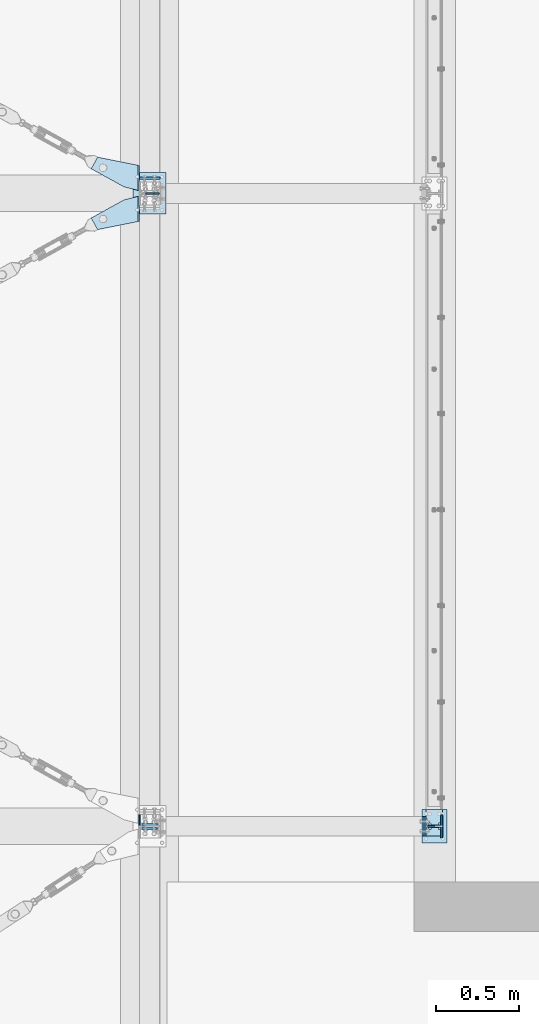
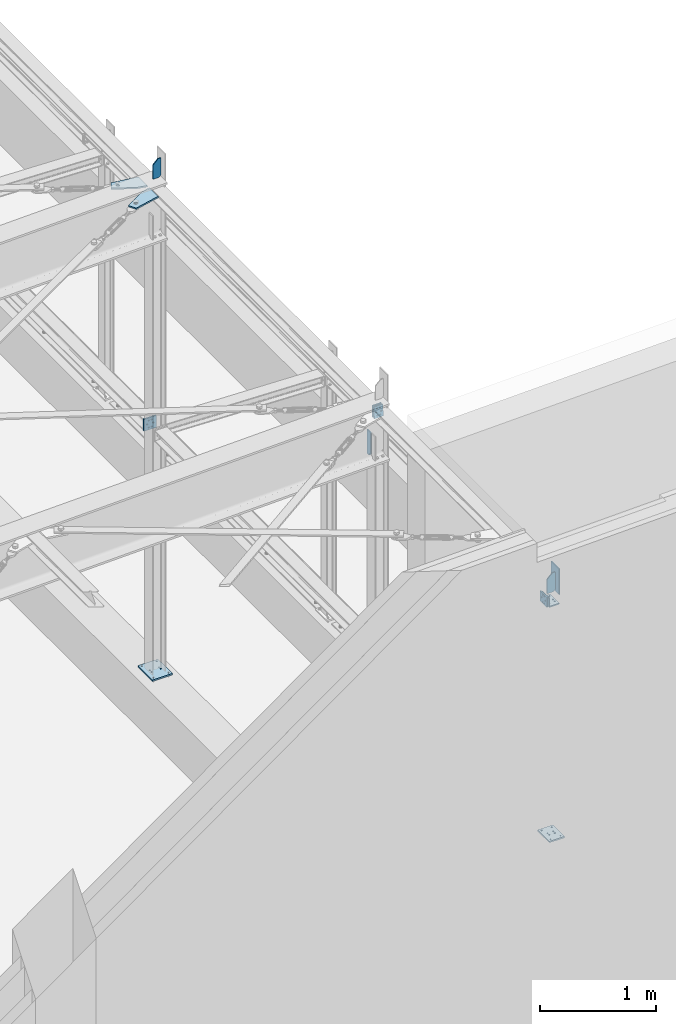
# One storey, part 42 of 476: 14 plates, 61 openings.
"""IFC2X3 building model written with IfcOpenShell, lengths in millimetres."""

from ifc_helpers import new_model, entity, si_unit, converted_unit, point, frame, frame_2d, origin, origin_with_axes, origin_2d_with_axis, place, context, project, spatial, polyline, circle_curve, line_curve, trimmed, segment, composite_curve, circle, outline, extrude, material, layer, layer_set, element, save


model = new_model("IFC2X3")

# Units and contexts
model_context = context("Model", 3, precision=1e-09, world=origin_with_axes())
ifc_project = project(units=[si_unit("LENGTHUNIT", "METRE", prefix="MILLI"), si_unit("AREAUNIT", "SQUARE_METRE"), si_unit("VOLUMEUNIT", "CUBIC_METRE"), converted_unit("PLANEANGLEUNIT", "DEGREE", entity("IfcPlaneAngleMeasure", 0.01745329), si_unit("PLANEANGLEUNIT", "RADIAN"), dimensions=[0, 0, 0, 0, 0, 0, 0])], contexts=[model_context])

# Site, building, storey
site_placement = place(None, origin_with_axes())
site = spatial("IfcSite", under=ifc_project, at=site_placement, Name="mKR Teilneubau & Sanierung BA1 - Ostfildern", CompositionType="ELEMENT")
building_placement = place(site_placement, origin_with_axes())
building = spatial("IfcBuilding", under=site, at=building_placement, Name="Struktur 1", CompositionType="ELEMENT")
storey_placement = place(building_placement, origin_with_axes())
storey = spatial("IfcBuildingStorey", under=building, at=storey_placement, Name="Default Storey", CompositionType="ELEMENT", Elevation=0.0)

# Plate, openings
ifc_material = material(Name="S235JR")
ifc_layer_1 = layer(ifc_material, 15.0)
ifc_layer_set_1 = layer_set([ifc_layer_1], Name="S235JR")
plate_1_placement = place(None, frame((21903.92386925, -17423.67287897, 5627.158981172), z_axis=(-0.030019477, 0.0, 0.999549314), x_axis=(-0.999549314, 0.0, -0.030019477)))
plate_1 = element("IfcPlate", 1, at=plate_1_placement, inside=storey, material=ifc_layer_set_1, Name="-", ObjectType="-", context=model_context, shape_type="SweptSolid", body=[
    extrude(outline(polyline([(0.0, 0.0), (55.140356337, 0.0), (291.381008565, 130.729269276), (252.646618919, 200.726934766), (1e-09, 150.0), (0.0, 0.0)])), origin_with_axes(), (0.0, 0.0, -1.0), 15.0),
])
opening_1_placement = place(plate_1_placement, frame((55.140356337, 0.0, 0.01), z_axis=(0.0, 0.0, 1.0), x_axis=(0.874966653, 0.484183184, 0.0)))
element("IfcOpeningElement", 2, at=opening_1_placement, cuts=plate_1, ObjectType="Opening", context=model_context, shape_type="SweptSolid", body=[
    extrude(outline(composite_curve([segment(trimmed(line_curve((0.0, 0.0), (1.0, 0.0), 45.191234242), [point((0.0, 0.0))], [point((45.191234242, 0.0))], True, "CARTESIAN"), True, "CONTINUOUS"), segment(trimmed(circle_curve(frame_2d((45.191234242, 175.0), x_axis=(-1.0, 0.0)), 175.0), [point((45.191234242, 0.0))], [point((-39.540822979, 21.880835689))], False, "CARTESIAN"), True, "CONTINUOUS"), segment(trimmed(line_curve((-39.540822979, 21.880835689), (0.874966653, -0.484183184), 45.191234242), [point((-39.540822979, 21.880835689))], [point((0.0, 0.0))], True, "CARTESIAN"), True, "CONTINUOUS")], self_intersect=False)), origin(), (0.0, 0.0, -1.0), 15.02),
])
opening_2_placement = place(plate_1_placement, frame((0.0, -0.001, 0.0), z_axis=(0.0, 1.0, 0.0), x_axis=(1.0, 0.0, 0.0)))
element("IfcOpeningElement", 3, at=opening_2_placement, cuts=plate_1, ObjectType="Opening", context=model_context, shape_type="SweptSolid", body=[
    extrude(outline(polyline([(0.0, 0.0), (8.0, 0.0), (0.0, 8.0), (0.0, 0.0)])), origin(), (0.0, 0.0, 1.0), 151.628257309),
])
opening_3_placement = place(plate_1_placement, frame((206.828395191, 129.656694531, -15.499404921), z_axis=(-2.2474e-05, 0.0, -1.0), x_axis=(-1.0, 0.0, 2.2474e-05)))
element("IfcOpeningElement", 4, at=opening_3_placement, cuts=plate_1, ObjectType="Opening", context=model_context, shape_type="SweptSolid", body=[
    extrude(circle(Radius=14.501, at=frame_2d((-12.687891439, 7.021140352), x_axis=(1.0, 0.0))), origin(), (0.0, 0.0, -1.0), 16.000000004),
])

plate_2_placement = place(None, frame((21903.92386925, -17387.67487897, 5627.158981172), z_axis=(0.030019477, 0.0, -0.999549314), x_axis=(-0.999549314, 0.0, -0.030019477)))
plate_2 = element("IfcPlate", 5, at=plate_2_placement, inside=storey, material=ifc_layer_set_1, Name="-", ObjectType="-", context=model_context, shape_type="SweptSolid", body=[
    extrude(outline(polyline([(0.0, 0.0), (55.140356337, 0.0), (291.381008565, 130.729269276), (252.646618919, 200.726934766), (1e-09, 150.0), (0.0, 0.0)])), origin_with_axes(), (0.0, 0.0, 1.0), 15.0),
])
opening_4_placement = place(plate_2_placement, frame((0.0, 0.0, -0.01), z_axis=(0.0, 0.0, 1.0), x_axis=(1.0, 0.0, 0.0)))
element("IfcOpeningElement", 6, at=opening_4_placement, cuts=plate_2, ObjectType="Opening", context=model_context, shape_type="SweptSolid", body=[
    extrude(outline(composite_curve([segment(trimmed(line_curve((55.140356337, 0.0), (0.874966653, 0.484183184), 45.191234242), [point((55.140356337, 0.0))], [point((94.681179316, 21.880835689))], True, "CARTESIAN"), True, "CONTINUOUS"), segment(trimmed(circle_curve(frame_2d((9.949122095, 175.0), x_axis=(-1.0, 0.0)), 175.0), [point((94.681179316, 21.880835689))], [point((9.949122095, 0.0))], False, "CARTESIAN"), True, "CONTINUOUS"), segment(trimmed(line_curve((9.949122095, 0.0), (1.0, 0.0), 45.191234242), [point((9.949122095, 0.0))], [point((55.140356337, 0.0))], True, "CARTESIAN"), True, "CONTINUOUS")], self_intersect=False)), origin(), (0.0, 0.0, 1.0), 15.02),
])
opening_5_placement = place(plate_2_placement, frame((1e-09, 151.607257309, 0.0), z_axis=(0.0, -1.0, 0.0), x_axis=(1.0, 0.0, 0.0)))
element("IfcOpeningElement", 7, at=opening_5_placement, cuts=plate_2, ObjectType="Opening", context=model_context, shape_type="SweptSolid", body=[
    extrude(outline(polyline([(0.0, 0.0), (8.0, 0.0), (0.0, 8.0), (0.0, 0.0)])), origin(), (0.0, 0.0, 1.0), 151.628257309),
])
opening_6_placement = place(plate_2_placement, frame((219.516286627, 136.677834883, 15.499690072), z_axis=(2.2474e-05, 0.0, -1.0), x_axis=(0.874966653, 0.484183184, 1.9664e-05)))
element("IfcOpeningElement", 8, at=opening_6_placement, cuts=plate_2, ObjectType="Opening", context=model_context, shape_type="SweptSolid", body=[
    extrude(circle(Radius=14.501, at=origin_2d_with_axis()), origin(), (0.0, 0.0, 1.0), 16.000000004),
])

ifc_layer_2 = layer(ifc_material, 10.0)
ifc_layer_set_2 = layer_set([ifc_layer_2], Name="S235JR")
plate_3_placement = place(None, frame((21942.108764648, -17400.67387897, 5888.306606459), z_axis=(0.0, 1.0, 0.0), x_axis=(1.0, 0.0, 0.0)))
plate_3 = element("IfcPlate", 9, at=plate_3_placement, inside=storey, material=ifc_layer_set_2, Name="-", ObjectType="-", context=model_context, shape_type="SweptSolid", body=[
    extrude(outline(polyline([(0.0, 0.0), (80.0, 0.0), (80.0, 197.595559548), (0.0, 200.0), (0.0, 0.0)])), origin_with_axes(), (0.0, 0.0, -1.0), 10.0),
])
opening_7_placement = place(plate_3_placement, frame((0.0, 0.0, 0.01), z_axis=(0.0, 0.0, 1.0), x_axis=(1.0, 0.0, 0.0)))
element("IfcOpeningElement", 10, at=opening_7_placement, cuts=plate_3, ObjectType="Opening", context=model_context, shape_type="SweptSolid", body=[
    extrude(outline(polyline([(0.0, 0.0), (50.0, 0.0), (0.0, 50.0), (0.0, 0.0)])), origin(), (0.0, 0.0, -1.0), 10.02),
])
opening_8_placement = place(plate_3_placement, frame((80.0, 197.595559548, 0.01), z_axis=(0.0, 0.0, 1.0), x_axis=(-0.999548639, 0.03004194, 0.0)))
element("IfcOpeningElement", 11, at=opening_8_placement, cuts=plate_3, ObjectType="Opening", context=model_context, shape_type="SweptSolid", body=[
    extrude(outline(polyline([(0.0, 0.0), (20.0, 0.0), (-0.600838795, 19.990972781), (0.0, 0.0)])), origin(), (0.0, 0.0, -1.0), 10.02),
])

# Plate
plate_4_placement = place(None, frame((23723.608764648, -21295.67387897, 2465.729061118), z_axis=(1.0, 0.0, 0.0), x_axis=(0.0, 1.0, 0.0)))
element("IfcPlate", 12, at=plate_4_placement, inside=storey, material=ifc_layer_set_2, Name="Coverplate", ObjectType="Coverplate", context=model_context, shape_type="SweptSolid", body=[
    extrude(outline(polyline([(0.0, 600.270938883), (140.0, 600.270938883), (140.0, 870.270938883), (0.0, 870.270938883), (0.0, 600.270938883)])), origin_with_axes(), (0.0, 0.0, 1.0), 10.0),
])

# Plate, openings
plate_5_placement = place(None, frame((23643.608764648, -21220.67387897, 3266.000000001), z_axis=(0.0, 1.0, 0.0), x_axis=(1.0, 0.0, 0.0)))
plate_5 = element("IfcPlate", 13, at=plate_5_placement, inside=storey, material=ifc_layer_set_2, Name="-", ObjectType="-", context=model_context, shape_type="SweptSolid", body=[
    extrude(outline(polyline([(0.0, 0.0), (80.0, 0.0), (80.0, 200.0), (0.0, 200.0), (0.0, 0.0)])), origin_with_axes(), (0.0, 0.0, -1.0), 10.0),
])
opening_9_placement = place(plate_5_placement, frame((0.0, 0.0, 0.01), z_axis=(0.0, 0.0, 1.0), x_axis=(1.0, 0.0, 0.0)))
element("IfcOpeningElement", 14, at=opening_9_placement, cuts=plate_5, ObjectType="Opening", context=model_context, shape_type="SweptSolid", body=[
    extrude(outline(polyline([(0.0, 0.0), (50.0, 0.0), (0.0, 50.0), (0.0, 0.0)])), origin(), (0.0, 0.0, -1.0), 10.02),
])
opening_10_placement = place(plate_5_placement, frame((80.0, 200.0, 0.01), z_axis=(0.0, 0.0, 1.0), x_axis=(-1.0, 0.0, 0.0)))
element("IfcOpeningElement", 15, at=opening_10_placement, cuts=plate_5, ObjectType="Opening", context=model_context, shape_type="SweptSolid", body=[
    extrude(outline(polyline([(0.0, 0.0), (20.0, 0.0), (0.0, 20.0), (0.0, 0.0)])), origin(), (0.0, 0.0, -1.0), 10.02),
])

ifc_layer_3 = layer(ifc_material, 12.0)
ifc_layer_set_3 = layer_set([ifc_layer_3], Name="S235JR")
plate_6_placement = place(None, frame((23683.608764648, -21205.67387897, 2958.0), z_axis=(0.0, 0.0, 1.0), x_axis=(-1.0, 0.0, 0.0)))
plate_6 = element("IfcPlate", 16, at=plate_6_placement, inside=storey, material=ifc_layer_set_3, Name="Endplate", ObjectType="Endplate", context=model_context, shape_type="SweptSolid", body=[
    extrude(outline(polyline([(-50.0, -80.0), (50.0, -80.0), (50.0, 80.0), (-50.0, 80.0), (-50.0, -80.0)])), origin_with_axes(), (0.0, 0.0, 1.0), 12.0),
])
opening_11_placement = place(plate_6_placement, frame((26.0, 5.5, 12.5), z_axis=(0.0, 0.0, -1.0), x_axis=(1.0, 0.0, 0.0)))
element("IfcOpeningElement", 17, at=opening_11_placement, cuts=plate_6, ObjectType="Opening", context=model_context, shape_type="SweptSolid", body=[
    extrude(circle(Radius=6.001, at=origin_2d_with_axis()), origin(), (0.0, 0.0, 1.0), 13.0),
])
opening_12_placement = place(plate_6_placement, frame((-30.0, 5.5, 12.5), z_axis=(0.0, 0.0, -1.0), x_axis=(1.0, 0.0, 0.0)))
element("IfcOpeningElement", 18, at=opening_12_placement, cuts=plate_6, ObjectType="Opening", context=model_context, shape_type="SweptSolid", body=[
    extrude(circle(Radius=6.001, at=origin_2d_with_axis()), origin(), (0.0, 0.0, 1.0), 13.0),
])
opening_13_placement = place(plate_6_placement, frame((-30.0, 34.5, 12.5), z_axis=(0.0, 0.0, -1.0), x_axis=(1.0, 0.0, 0.0)))
element("IfcOpeningElement", 19, at=opening_13_placement, cuts=plate_6, ObjectType="Opening", context=model_context, shape_type="SweptSolid", body=[
    extrude(circle(Radius=6.001, at=origin_2d_with_axis()), origin(), (0.0, 0.0, 1.0), 13.0),
])
opening_14_placement = place(plate_6_placement, frame((26.0, 34.5, 12.5), z_axis=(0.0, 0.0, -1.0), x_axis=(1.0, 0.0, 0.0)))
element("IfcOpeningElement", 20, at=opening_14_placement, cuts=plate_6, ObjectType="Opening", context=model_context, shape_type="SweptSolid", body=[
    extrude(circle(Radius=6.001, at=origin_2d_with_axis()), origin(), (0.0, 0.0, 1.0), 13.0),
])
opening_15_placement = place(plate_6_placement, frame((-50.0, 80.001, 0.0), z_axis=(0.0, -1.0, 0.0), x_axis=(1.0, 0.0, 0.0)))
element("IfcOpeningElement", 21, at=opening_15_placement, cuts=plate_6, ObjectType="Opening", context=model_context, shape_type="SweptSolid", body=[
    extrude(outline(polyline([(0.0, 0.0), (4.0, 0.0), (0.0, 4.0), (0.0, 0.0)])), origin(), (0.0, 0.0, 1.0), 110.022),
])
opening_16_placement = place(plate_6_placement, frame((-28.0, -47.999, -0.5), z_axis=(0.0, 0.0, -1.0), x_axis=(-1.0, 0.0, 0.0)))
element("IfcOpeningElement", 22, at=opening_16_placement, cuts=plate_6, ObjectType="Opening", context=model_context, shape_type="SweptSolid", body=[
    extrude(circle(Radius=7.001, at=frame_2d((0.0, -7.001), x_axis=(1.0, 0.0))), origin(), (0.0, 0.0, -1.0), 13.0),
])
opening_17_placement = place(plate_6_placement, frame((28.0, -47.999, -0.5), z_axis=(0.0, 0.0, -1.0), x_axis=(-1.0, 0.0, 0.0)))
element("IfcOpeningElement", 23, at=opening_17_placement, cuts=plate_6, ObjectType="Opening", context=model_context, shape_type="SweptSolid", body=[
    extrude(circle(Radius=7.001, at=frame_2d((0.0, -7.001), x_axis=(1.0, 0.0))), origin(), (0.0, 0.0, -1.0), 13.0),
])

plate_7_placement = place(None, frame((22065.608764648, -17280.67387897, 540.0), z_axis=(0.0, 0.0, -1.0), x_axis=(0.0, -1.0, 0.0)))
plate_7 = element("IfcPlate", 24, at=plate_7_placement, inside=storey, material=ifc_layer_set_1, Name="Baseplate", ObjectType="Baseplate", context=model_context, shape_type="SweptSolid", body=[
    extrude(outline(polyline([(0.0, 0.0), (250.0, 0.0), (250.0, 200.0), (0.0, 200.0), (0.0, 0.0)])), origin_with_axes(), (0.0, 0.0, 1.0), 15.0),
])
opening_18_placement = place(plate_7_placement, frame((110.25, 146.0, 15.5), z_axis=(0.0, 0.0, -1.0), x_axis=(0.0, -1.0, 0.0)))
element("IfcOpeningElement", 25, at=opening_18_placement, cuts=plate_7, ObjectType="Opening", context=model_context, shape_type="SweptSolid", body=[
    extrude(circle(Radius=6.001, at=origin_2d_with_axis()), origin(), (0.0, 0.0, 1.0), 16.0),
])
opening_19_placement = place(plate_7_placement, frame((110.25, 54.0, 15.5), z_axis=(0.0, 0.0, -1.0), x_axis=(0.0, -1.0, 0.0)))
element("IfcOpeningElement", 26, at=opening_19_placement, cuts=plate_7, ObjectType="Opening", context=model_context, shape_type="SweptSolid", body=[
    extrude(circle(Radius=6.001, at=origin_2d_with_axis()), origin(), (0.0, 0.0, 1.0), 16.0),
])
opening_20_placement = place(plate_7_placement, frame((139.75, 54.0, 15.5), z_axis=(0.0, 0.0, -1.0), x_axis=(0.0, -1.0, 0.0)))
element("IfcOpeningElement", 27, at=opening_20_placement, cuts=plate_7, ObjectType="Opening", context=model_context, shape_type="SweptSolid", body=[
    extrude(circle(Radius=6.001, at=origin_2d_with_axis()), origin(), (0.0, 0.0, 1.0), 16.0),
])
opening_21_placement = place(plate_7_placement, frame((139.75, 146.0, 15.5), z_axis=(0.0, 0.0, -1.0), x_axis=(0.0, -1.0, 0.0)))
element("IfcOpeningElement", 28, at=opening_21_placement, cuts=plate_7, ObjectType="Opening", context=model_context, shape_type="SweptSolid", body=[
    extrude(circle(Radius=6.001, at=origin_2d_with_axis()), origin(), (0.0, 0.0, 1.0), 16.0),
])
opening_22_placement = place(plate_7_placement, frame((125.0, 100.0, 15.5), z_axis=(0.0, 0.0, -1.0), x_axis=(1.0, 0.0, 0.0)))
element("IfcOpeningElement", 29, at=opening_22_placement, cuts=plate_7, ObjectType="Opening", context=model_context, shape_type="SweptSolid", body=[
    extrude(circle(Radius=6.001, at=frame_2d((100.0, 75.0), x_axis=(1.0, 0.0))), origin(), (0.0, 0.0, 1.0), 16.0),
])
opening_23_placement = place(plate_7_placement, frame((125.0, 100.0, 15.5), z_axis=(0.0, 0.0, -1.0), x_axis=(1.0, 0.0, 0.0)))
element("IfcOpeningElement", 30, at=opening_23_placement, cuts=plate_7, ObjectType="Opening", context=model_context, shape_type="SweptSolid", body=[
    extrude(circle(Radius=6.001, at=frame_2d((-100.0, 75.0), x_axis=(1.0, 0.0))), origin(), (0.0, 0.0, 1.0), 16.0),
])
opening_24_placement = place(plate_7_placement, frame((125.0, 100.0, 15.5), z_axis=(0.0, 0.0, -1.0), x_axis=(1.0, 0.0, 0.0)))
element("IfcOpeningElement", 31, at=opening_24_placement, cuts=plate_7, ObjectType="Opening", context=model_context, shape_type="SweptSolid", body=[
    extrude(circle(Radius=6.001, at=frame_2d((100.0, -75.0), x_axis=(1.0, 0.0))), origin(), (0.0, 0.0, 1.0), 16.0),
])
opening_25_placement = place(plate_7_placement, frame((125.0, 100.0, 15.5), z_axis=(0.0, 0.0, -1.0), x_axis=(1.0, 0.0, 0.0)))
element("IfcOpeningElement", 32, at=opening_25_placement, cuts=plate_7, ObjectType="Opening", context=model_context, shape_type="SweptSolid", body=[
    extrude(circle(Radius=6.001, at=frame_2d((-100.0, -75.0), x_axis=(1.0, 0.0))), origin(), (0.0, 0.0, 1.0), 16.0),
])

plate_8_placement = place(None, frame((21965.608780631, -17305.67387897, 3068.000017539), z_axis=(0.0, -1.0, 0.0), x_axis=(0.0, 0.0, -1.0)))
plate_8 = element("IfcPlate", 33, at=plate_8_placement, inside=storey, material=ifc_layer_set_1, Name="Endplate#1", ObjectType="Endplate#1", context=model_context, shape_type="SweptSolid", body=[
    extrude(outline(polyline([(-62.0, -62.0), (62.0, -62.0), (62.0, 62.0), (-62.0, 62.0), (-62.0, -62.0)])), origin_with_axes(), (0.0, 0.0, 1.0), 15.0),
])
opening_26_placement = place(plate_8_placement, frame((37.0, -14.5, 15.5), z_axis=(0.0, 0.0, -1.0), x_axis=(1.0, 0.0, 0.0)))
element("IfcOpeningElement", 34, at=opening_26_placement, cuts=plate_8, ObjectType="Opening", context=model_context, shape_type="SweptSolid", body=[
    extrude(circle(Radius=6.001, at=origin_2d_with_axis()), origin(), (0.0, 0.0, 1.0), 16.0),
])
opening_27_placement = place(plate_8_placement, frame((-37.0, -14.5, 15.5), z_axis=(0.0, 0.0, -1.0), x_axis=(1.0, 0.0, 0.0)))
element("IfcOpeningElement", 35, at=opening_27_placement, cuts=plate_8, ObjectType="Opening", context=model_context, shape_type="SweptSolid", body=[
    extrude(circle(Radius=6.001, at=origin_2d_with_axis()), origin(), (0.0, 0.0, 1.0), 16.0),
])
opening_28_placement = place(plate_8_placement, frame((-37.0, 14.5, 15.5), z_axis=(0.0, 0.0, -1.0), x_axis=(1.0, 0.0, 0.0)))
element("IfcOpeningElement", 36, at=opening_28_placement, cuts=plate_8, ObjectType="Opening", context=model_context, shape_type="SweptSolid", body=[
    extrude(circle(Radius=6.001, at=origin_2d_with_axis()), origin(), (0.0, 0.0, 1.0), 16.0),
])
opening_29_placement = place(plate_8_placement, frame((37.0, 14.5, 15.5), z_axis=(0.0, 0.0, -1.0), x_axis=(1.0, 0.0, 0.0)))
element("IfcOpeningElement", 37, at=opening_29_placement, cuts=plate_8, ObjectType="Opening", context=model_context, shape_type="SweptSolid", body=[
    extrude(circle(Radius=6.001, at=origin_2d_with_axis()), origin(), (0.0, 0.0, 1.0), 16.0),
])
opening_30_placement = place(plate_8_placement, frame((0.0, 30.0, 15.5), z_axis=(0.0, 0.0, -1.0), x_axis=(-1.0, 0.0, 0.0)))
element("IfcOpeningElement", 38, at=opening_30_placement, cuts=plate_8, ObjectType="Opening", context=model_context, shape_type="SweptSolid", body=[
    extrude(circle(Radius=7.001, at=origin_2d_with_axis()), origin(), (0.0, 0.0, 1.0), 16.0),
])
opening_31_placement = place(plate_8_placement, frame((0.0, -30.0, 15.5), z_axis=(0.0, 0.0, -1.0), x_axis=(0.0, -1.0, 0.0)))
element("IfcOpeningElement", 39, at=opening_31_placement, cuts=plate_8, ObjectType="Opening", context=model_context, shape_type="SweptSolid", body=[
    extrude(circle(Radius=7.001, at=origin_2d_with_axis()), origin(), (0.0, 0.0, 1.0), 16.0),
])

plate_9_placement = place(None, frame((21909.108764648, -21154.67387897, 5107.553116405), z_axis=(-1.0, 0.0, 0.0), x_axis=(0.0, -1.0, 0.0)))
plate_9 = element("IfcPlate", 40, at=plate_9_placement, inside=storey, material=ifc_layer_set_2, Name="Stiffener#2", ObjectType="Stiffener#2", context=model_context, shape_type="SweptSolid", body=[
    extrude(outline(polyline([(0.0, 0.0), (65.0, 0.0), (65.0, 250.0), (0.0, 250.0), (0.0, 0.0)])), origin_with_axes(), (0.0, 0.0, 1.0), 10.0),
])
opening_32_placement = place(plate_9_placement, frame((0.0, 0.0, -0.01), z_axis=(0.0, 0.0, 1.0), x_axis=(1.0, 0.0, 0.0)))
element("IfcOpeningElement", 41, at=opening_32_placement, cuts=plate_9, ObjectType="Opening", context=model_context, shape_type="SweptSolid", body=[
    extrude(outline(composite_curve([segment(trimmed(line_curve((65.0, 0.0), (0.0, 1.0), 25.0), [point((65.0, 0.0))], [point((65.0, 25.0))], True, "CARTESIAN"), True, "CONTINUOUS"), segment(trimmed(circle_curve(frame_2d((40.0, 25.0), x_axis=(-1.0, 0.0)), 25.0), [point((65.0, 25.0))], [point((40.0, 0.0))], False, "CARTESIAN"), True, "CONTINUOUS"), segment(trimmed(line_curve((40.0, 0.0), (1.0, 0.0), 25.0), [point((40.0, 0.0))], [point((65.0, 0.0))], True, "CARTESIAN"), True, "CONTINUOUS")], self_intersect=False)), origin(), (0.0, 0.0, 1.0), 10.02),
])
opening_33_placement = place(plate_9_placement, frame((41.0, 22.198767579, -0.5), z_axis=(0.0, 0.0, 1.0), x_axis=(0.0, -1.0, 0.0)))
element("IfcOpeningElement", 42, at=opening_33_placement, cuts=plate_9, ObjectType="Opening", context=model_context, shape_type="SweptSolid", body=[
    extrude(circle(Radius=7.001, at=frame_2d((7.0, 7.0), x_axis=(1.0, 0.0))), origin(), (0.0, 0.0, 1.0), 11.0),
])

plate_10_placement = place(None, frame((22008.725869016, -21231.67387897, 5635.31111627), z_axis=(0.0, -1.0, 0.0), x_axis=(-0.999548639, 0.0, -0.030041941)))
plate_10 = element("IfcPlate", 43, at=plate_10_placement, inside=storey, material=ifc_layer_set_3, Name="Endplate", ObjectType="Endplate", context=model_context, shape_type="SweptSolid", body=[
    extrude(outline(polyline([(0.0, 0.0), (90.0, 0.0), (90.0, 124.0), (0.0, 124.0), (0.0, 0.0)])), origin_with_axes(), (0.0, 0.0, 1.0), 12.0),
])
opening_34_placement = place(plate_10_placement, frame((20.0, 62.0, -0.5), z_axis=(0.0, 0.0, 1.0), x_axis=(0.0, -1.0, 0.0)))
element("IfcOpeningElement", 44, at=opening_34_placement, cuts=plate_10, ObjectType="Opening", context=model_context, shape_type="SweptSolid", body=[
    extrude(circle(Radius=7.001, at=origin_2d_with_axis()), origin(), (0.0, 0.0, 1.0), 13.0),
])
opening_35_placement = place(plate_10_placement, frame((70.0, 62.0, -0.5), z_axis=(0.0, 0.0, 1.0), x_axis=(0.0, -1.0, 0.0)))
element("IfcOpeningElement", 45, at=opening_35_placement, cuts=plate_10, ObjectType="Opening", context=model_context, shape_type="SweptSolid", body=[
    extrude(circle(Radius=7.001, at=origin_2d_with_axis()), origin(), (0.0, 0.0, 1.0), 13.0),
])
opening_36_placement = place(plate_10_placement, frame((59.5, 99.0, -0.5), z_axis=(0.0, 0.0, 1.0), x_axis=(0.0, -1.0, 0.0)))
element("IfcOpeningElement", 46, at=opening_36_placement, cuts=plate_10, ObjectType="Opening", context=model_context, shape_type="SweptSolid", body=[
    extrude(circle(Radius=6.001, at=origin_2d_with_axis()), origin(), (0.0, 0.0, 1.0), 13.0),
])
opening_37_placement = place(plate_10_placement, frame((59.5, 25.0, -0.5), z_axis=(0.0, 0.0, 1.0), x_axis=(0.0, -1.0, 0.0)))
element("IfcOpeningElement", 47, at=opening_37_placement, cuts=plate_10, ObjectType="Opening", context=model_context, shape_type="SweptSolid", body=[
    extrude(circle(Radius=6.001, at=origin_2d_with_axis()), origin(), (0.0, 0.0, 1.0), 13.0),
])
opening_38_placement = place(plate_10_placement, frame((30.5, 25.0, -0.5), z_axis=(0.0, 0.0, 1.0), x_axis=(0.0, -1.0, 0.0)))
element("IfcOpeningElement", 48, at=opening_38_placement, cuts=plate_10, ObjectType="Opening", context=model_context, shape_type="SweptSolid", body=[
    extrude(circle(Radius=6.001, at=origin_2d_with_axis()), origin(), (0.0, 0.0, 1.0), 13.0),
])
opening_39_placement = place(plate_10_placement, frame((30.5, 99.0, -0.5), z_axis=(0.0, 0.0, 1.0), x_axis=(0.0, -1.0, 0.0)))
element("IfcOpeningElement", 49, at=opening_39_placement, cuts=plate_10, ObjectType="Opening", context=model_context, shape_type="SweptSolid", body=[
    extrude(circle(Radius=6.001, at=origin_2d_with_axis()), origin(), (0.0, 0.0, 1.0), 13.0),
])

plate_11_placement = place(None, frame((21918.766491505, -21219.67387897, 5632.607341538), z_axis=(0.0, 1.0, 0.0), x_axis=(0.999548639, 0.0, 0.030041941)))
plate_11 = element("IfcPlate", 50, at=plate_11_placement, inside=storey, material=ifc_layer_set_3, Name="Endplate", ObjectType="Endplate", context=model_context, shape_type="SweptSolid", body=[
    extrude(outline(polyline([(0.0, 0.0), (90.0, 0.0), (90.0, 124.0), (0.0, 124.0), (0.0, 0.0)])), origin_with_axes(), (0.0, 0.0, 1.0), 12.0),
])
opening_40_placement = place(plate_11_placement, frame((20.0, 62.0, 12.5), z_axis=(0.0, 0.0, -1.0), x_axis=(0.0, -1.0, 0.0)))
element("IfcOpeningElement", 51, at=opening_40_placement, cuts=plate_11, ObjectType="Opening", context=model_context, shape_type="SweptSolid", body=[
    extrude(circle(Radius=7.001, at=origin_2d_with_axis()), origin(), (0.0, 0.0, 1.0), 13.0),
])
opening_41_placement = place(plate_11_placement, frame((70.0, 62.0, 12.5), z_axis=(0.0, 0.0, -1.0), x_axis=(0.0, -1.0, 0.0)))
element("IfcOpeningElement", 52, at=opening_41_placement, cuts=plate_11, ObjectType="Opening", context=model_context, shape_type="SweptSolid", body=[
    extrude(circle(Radius=7.001, at=origin_2d_with_axis()), origin(), (0.0, 0.0, 1.0), 13.0),
])
opening_42_placement = place(plate_11_placement, frame((30.5, 99.0, -0.5), z_axis=(0.0, 0.0, 1.0), x_axis=(0.0, 1.0, 0.0)))
element("IfcOpeningElement", 53, at=opening_42_placement, cuts=plate_11, ObjectType="Opening", context=model_context, shape_type="SweptSolid", body=[
    extrude(circle(Radius=6.001, at=origin_2d_with_axis()), origin(), (0.0, 0.0, 1.0), 13.0),
])
opening_43_placement = place(plate_11_placement, frame((30.5, 25.0, -0.5), z_axis=(0.0, 0.0, 1.0), x_axis=(0.0, 1.0, 0.0)))
element("IfcOpeningElement", 54, at=opening_43_placement, cuts=plate_11, ObjectType="Opening", context=model_context, shape_type="SweptSolid", body=[
    extrude(circle(Radius=6.001, at=origin_2d_with_axis()), origin(), (0.0, 0.0, 1.0), 13.0),
])
opening_44_placement = place(plate_11_placement, frame((59.5, 25.0, -0.5), z_axis=(0.0, 0.0, 1.0), x_axis=(0.0, 1.0, 0.0)))
element("IfcOpeningElement", 55, at=opening_44_placement, cuts=plate_11, ObjectType="Opening", context=model_context, shape_type="SweptSolid", body=[
    extrude(circle(Radius=6.001, at=origin_2d_with_axis()), origin(), (0.0, 0.0, 1.0), 13.0),
])
opening_45_placement = place(plate_11_placement, frame((59.5, 99.0, -0.5), z_axis=(0.0, 0.0, 1.0), x_axis=(0.0, 1.0, 0.0)))
element("IfcOpeningElement", 56, at=opening_45_placement, cuts=plate_11, ObjectType="Opening", context=model_context, shape_type="SweptSolid", body=[
    extrude(circle(Radius=6.001, at=origin_2d_with_axis()), origin(), (0.0, 0.0, 1.0), 13.0),
])

plate_12_placement = place(None, frame((23760.608764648, -21125.67387897, 540.0), z_axis=(0.0, 0.0, -1.0), x_axis=(0.0, -1.0, 0.0)))
plate_12 = element("IfcPlate", 57, at=plate_12_placement, inside=storey, material=ifc_layer_set_1, Name="Baseplate", ObjectType="Baseplate", context=model_context, shape_type="SweptSolid", body=[
    extrude(outline(polyline([(0.0, 0.0), (200.0, 0.0), (200.0, 150.0), (0.0, 150.0), (0.0, 0.0)])), origin_with_axes(), (0.0, 0.0, 1.0), 15.0),
])
opening_46_placement = place(plate_12_placement, frame((85.5, 103.0, 15.5), z_axis=(0.0, 0.0, -1.0), x_axis=(0.0, -1.0, 0.0)))
element("IfcOpeningElement", 58, at=opening_46_placement, cuts=plate_12, ObjectType="Opening", context=model_context, shape_type="SweptSolid", body=[
    extrude(circle(Radius=6.001, at=origin_2d_with_axis()), origin(), (0.0, 0.0, 1.0), 16.0),
])
opening_47_placement = place(plate_12_placement, frame((85.5, 47.0, 15.5), z_axis=(0.0, 0.0, -1.0), x_axis=(0.0, -1.0, 0.0)))
element("IfcOpeningElement", 59, at=opening_47_placement, cuts=plate_12, ObjectType="Opening", context=model_context, shape_type="SweptSolid", body=[
    extrude(circle(Radius=6.001, at=origin_2d_with_axis()), origin(), (0.0, 0.0, 1.0), 16.0),
])
opening_48_placement = place(plate_12_placement, frame((114.5, 47.0, 15.5), z_axis=(0.0, 0.0, -1.0), x_axis=(0.0, -1.0, 0.0)))
element("IfcOpeningElement", 60, at=opening_48_placement, cuts=plate_12, ObjectType="Opening", context=model_context, shape_type="SweptSolid", body=[
    extrude(circle(Radius=6.001, at=origin_2d_with_axis()), origin(), (0.0, 0.0, 1.0), 16.0),
])
opening_49_placement = place(plate_12_placement, frame((114.5, 103.0, 15.5), z_axis=(0.0, 0.0, -1.0), x_axis=(0.0, -1.0, 0.0)))
element("IfcOpeningElement", 61, at=opening_49_placement, cuts=plate_12, ObjectType="Opening", context=model_context, shape_type="SweptSolid", body=[
    extrude(circle(Radius=6.001, at=origin_2d_with_axis()), origin(), (0.0, 0.0, 1.0), 16.0),
])
opening_50_placement = place(plate_12_placement, frame((100.0, 75.0, 15.5), z_axis=(0.0, 0.0, -1.0), x_axis=(1.0, 0.0, 0.0)))
element("IfcOpeningElement", 62, at=opening_50_placement, cuts=plate_12, ObjectType="Opening", context=model_context, shape_type="SweptSolid", body=[
    extrude(circle(Radius=6.001, at=frame_2d((75.0, 50.0), x_axis=(1.0, 0.0))), origin(), (0.0, 0.0, 1.0), 16.0),
])
opening_51_placement = place(plate_12_placement, frame((100.0, 75.0, 15.5), z_axis=(0.0, 0.0, -1.0), x_axis=(1.0, 0.0, 0.0)))
element("IfcOpeningElement", 63, at=opening_51_placement, cuts=plate_12, ObjectType="Opening", context=model_context, shape_type="SweptSolid", body=[
    extrude(circle(Radius=6.001, at=frame_2d((-75.0, 50.0), x_axis=(1.0, 0.0))), origin(), (0.0, 0.0, 1.0), 16.0),
])
opening_52_placement = place(plate_12_placement, frame((100.0, 75.0, 15.5), z_axis=(0.0, 0.0, -1.0), x_axis=(1.0, 0.0, 0.0)))
element("IfcOpeningElement", 64, at=opening_52_placement, cuts=plate_12, ObjectType="Opening", context=model_context, shape_type="SweptSolid", body=[
    extrude(circle(Radius=6.001, at=frame_2d((75.0, -50.0), x_axis=(1.0, 0.0))), origin(), (0.0, 0.0, 1.0), 16.0),
])
opening_53_placement = place(plate_12_placement, frame((100.0, 75.0, 15.5), z_axis=(0.0, 0.0, -1.0), x_axis=(1.0, 0.0, 0.0)))
element("IfcOpeningElement", 65, at=opening_53_placement, cuts=plate_12, ObjectType="Opening", context=model_context, shape_type="SweptSolid", body=[
    extrude(circle(Radius=6.001, at=frame_2d((-75.0, -50.0), x_axis=(1.0, 0.0))), origin(), (0.0, 0.0, 1.0), 16.0),
])

plate_13_placement = place(None, frame((23609.608764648, -21225.67387897, 3020.209302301), z_axis=(1.0, 0.0, 0.0), x_axis=(0.0, 0.0, -1.0)))
plate_13 = element("IfcPlate", 66, at=plate_13_placement, inside=storey, material=ifc_layer_set_3, Name="Endplate#1", ObjectType="Endplate#1", context=model_context, shape_type="SweptSolid", body=[
    extrude(outline(polyline([(-52.024078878, -60.0), (52.024078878, -60.0), (52.024078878, 60.0), (-52.024078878, 60.0), (-52.024078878, -60.0)])), origin_with_axes(), (0.0, 0.0, 1.0), 12.0),
])
opening_54_placement = place(plate_13_placement, frame((-37.020699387, -14.5, 12.5), z_axis=(0.0, 0.0, -1.0), x_axis=(1.0, 0.0, 0.0)))
element("IfcOpeningElement", 67, at=opening_54_placement, cuts=plate_13, ObjectType="Opening", context=model_context, shape_type="SweptSolid", body=[
    extrude(circle(Radius=6.001, at=origin_2d_with_axis()), origin(), (0.0, 0.0, 1.0), 13.0),
])
opening_55_placement = place(plate_13_placement, frame((37.020699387, -14.5, 12.5), z_axis=(0.0, 0.0, -1.0), x_axis=(1.0, 0.0, 0.0)))
element("IfcOpeningElement", 68, at=opening_55_placement, cuts=plate_13, ObjectType="Opening", context=model_context, shape_type="SweptSolid", body=[
    extrude(circle(Radius=6.001, at=origin_2d_with_axis()), origin(), (0.0, 0.0, 1.0), 13.0),
])
opening_56_placement = place(plate_13_placement, frame((37.020699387, 14.5, 12.5), z_axis=(0.0, 0.0, -1.0), x_axis=(1.0, 0.0, 0.0)))
element("IfcOpeningElement", 69, at=opening_56_placement, cuts=plate_13, ObjectType="Opening", context=model_context, shape_type="SweptSolid", body=[
    extrude(circle(Radius=6.001, at=origin_2d_with_axis()), origin(), (0.0, 0.0, 1.0), 13.0),
])
opening_57_placement = place(plate_13_placement, frame((-37.020699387, 14.5, 12.5), z_axis=(0.0, 0.0, -1.0), x_axis=(1.0, 0.0, 0.0)))
element("IfcOpeningElement", 70, at=opening_57_placement, cuts=plate_13, ObjectType="Opening", context=model_context, shape_type="SweptSolid", body=[
    extrude(circle(Radius=6.001, at=origin_2d_with_axis()), origin(), (0.0, 0.0, 1.0), 13.0),
])
opening_58_placement = place(plate_13_placement, frame((0.0, -30.0, 12.5), z_axis=(0.0, 0.0, -1.0), x_axis=(0.0, -1.0, 0.0)))
element("IfcOpeningElement", 71, at=opening_58_placement, cuts=plate_13, ObjectType="Opening", context=model_context, shape_type="SweptSolid", body=[
    extrude(circle(Radius=7.001, at=origin_2d_with_axis()), origin(), (0.0, 0.0, 1.0), 13.0),
])
opening_59_placement = place(plate_13_placement, frame((0.0, 30.0, 12.5), z_axis=(0.0, 0.0, -1.0), x_axis=(-1.0, 0.0, 0.0)))
element("IfcOpeningElement", 72, at=opening_59_placement, cuts=plate_13, ObjectType="Opening", context=model_context, shape_type="SweptSolid", body=[
    extrude(circle(Radius=7.001, at=origin_2d_with_axis()), origin(), (0.0, 0.0, 1.0), 13.0),
])

plate_14_placement = place(None, frame((23633.608764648, -21225.67387897, 3018.0), z_axis=(-1.0, 0.0, 0.0), x_axis=(0.0, -1.0, 0.0)))
plate_14 = element("IfcPlate", 73, at=plate_14_placement, inside=storey, material=ifc_layer_set_3, Name="T-plate", ObjectType="T-plate", context=model_context, shape_type="SweptSolid", body=[
    extrude(outline(polyline([(-60.0, -44.0), (60.0, -44.0), (60.0, 44.0), (-60.0, 44.0), (-60.0, -44.0)])), origin_with_axes(), (0.0, 0.0, 1.0), 12.0),
])
opening_60_placement = place(plate_14_placement, frame((30.0, 2.209302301, -0.5), z_axis=(0.0, 0.0, 1.0), x_axis=(1.0, 0.0, 0.0)))
element("IfcOpeningElement", 74, at=opening_60_placement, cuts=plate_14, ObjectType="Opening", context=model_context, shape_type="SweptSolid", body=[
    extrude(circle(Radius=7.001, at=origin_2d_with_axis()), origin(), (0.0, 0.0, 1.0), 13.0),
])
opening_61_placement = place(plate_14_placement, frame((-30.0, 2.209302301, -0.5), z_axis=(0.0, 0.0, 1.0), x_axis=(0.0, 1.0, 0.0)))
element("IfcOpeningElement", 75, at=opening_61_placement, cuts=plate_14, ObjectType="Opening", context=model_context, shape_type="SweptSolid", body=[
    extrude(circle(Radius=7.001, at=origin_2d_with_axis()), origin(), (0.0, 0.0, 1.0), 13.0),
])

save(model, "model.ifc")
